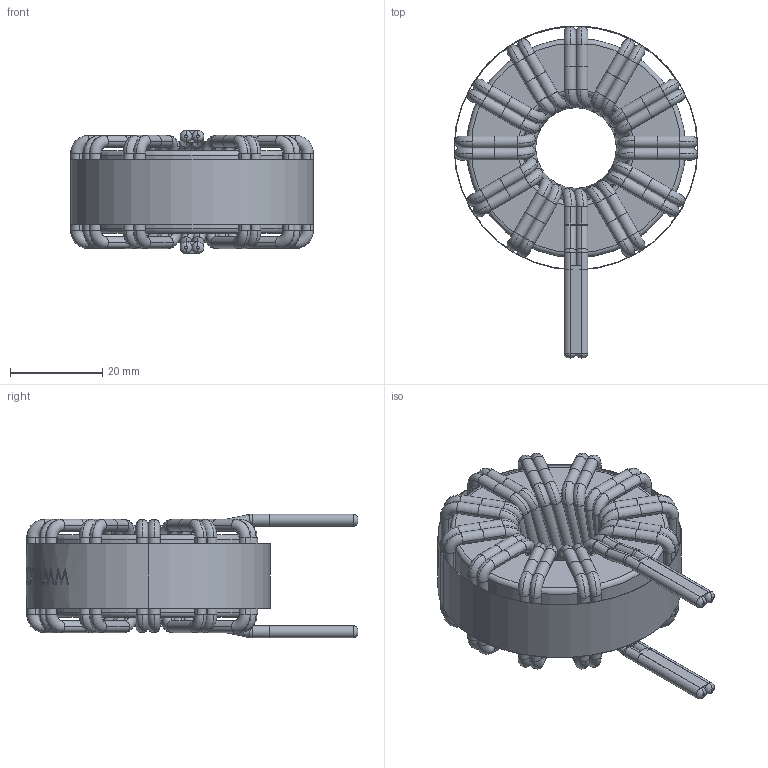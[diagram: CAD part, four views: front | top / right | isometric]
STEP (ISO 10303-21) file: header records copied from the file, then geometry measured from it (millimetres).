
FILE_DESCRIPTION (( 'STEP AP214' ), '1' );
FILE_NAME ('HF467-200M-65AV.step', '2021-03-04T09:52:12', ( '' ), ( '' ), 'SwSTEP 2.0', 'SolidWorks 2015', '' );
FILE_SCHEMA (( 'AUTOMOTIVE_DESIGN' ));
Length unit declared in the file: millimetre
Products named in the file (5): EPOXY; WINDING; CORE; HF467-200M-65AV; WRAPPER
Assembly tree (4 placements, depth 2):
  HF467-200M-65AV
    CORE
    WINDING
    WRAPPER
    EPOXY
Bounding box: 52.98 x 72.1 x 26.84 mm (x, y, z)
Volume: 33493.1 mm3; surface area: 26077.5 mm2
Topology: 37 solids, 37 shells, 723 faces, 1880 edges, 1247 vertices
Faces by surface type: cylinder 289, torus 216, plane 115, bspline 103
Entity records: 37814 total; most frequent: CARTESIAN_POINT 14109, DIRECTION 4036, ORIENTED_EDGE 3760, EDGE_CURVE 1880, AXIS2_PLACEMENT_3D 1866, VERTEX_POINT 1247, CIRCLE 1239, EDGE_LOOP 743
